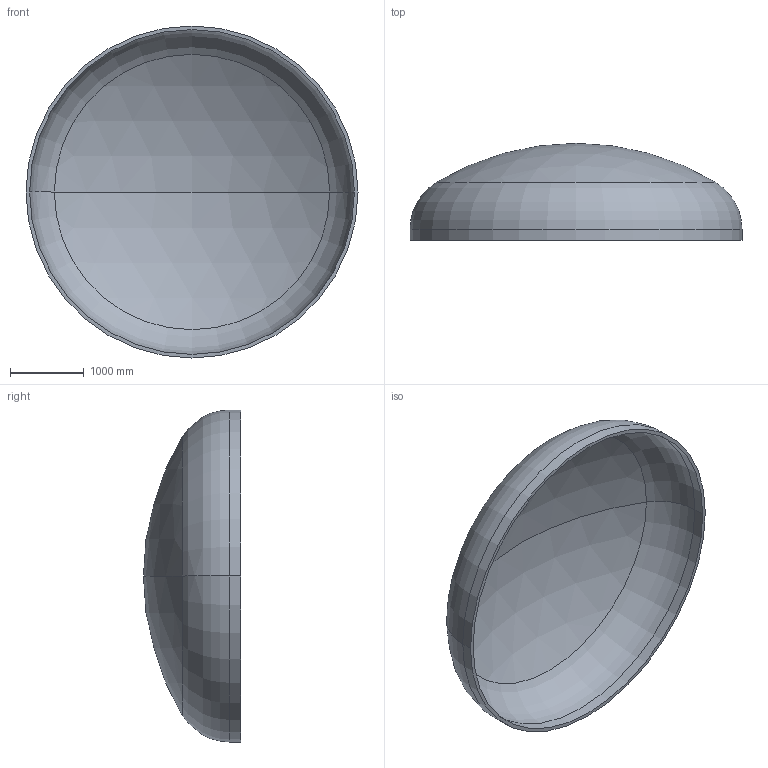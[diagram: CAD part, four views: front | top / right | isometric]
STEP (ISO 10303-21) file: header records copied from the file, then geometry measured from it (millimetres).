
FILE_DESCRIPTION (( 'STEP AP203' ), '1' );
FILE_NAME ('DIN 28013 Korbbogenform_-_Boden DIN 28013 - 4500 x 150 - I - s=49.step', '2016-07-01T23:31:09', ( '' ), ( '' ), 'SwSTEP 2.0', 'SolidWorks 2013', '' );
FILE_SCHEMA (( 'CONFIG_CONTROL_DESIGN' ));
Length unit declared in the file: millimetre
Products named in the file (1): DIN 28013 Korbbogenform_-_Boden DIN 28013 - 4500 x 150 - I - s=49
Bounding box: 4500 x 1314.85 x 4500 mm (x, y, z)
Volume: 1167283726.9 mm3; surface area: 48334423.3 mm2
Topology: 1 solids, 1 shells, 13 faces, 24 edges, 14 vertices
Faces by surface type: torus 4, cylinder 4, sphere 4, plane 1
Entity records: 407 total; most frequent: DIRECTION 72, CARTESIAN_POINT 52, ORIENTED_EDGE 48, AXIS2_PLACEMENT_3D 34, EDGE_CURVE 24, CIRCLE 20, EDGE_LOOP 14, VERTEX_POINT 14
